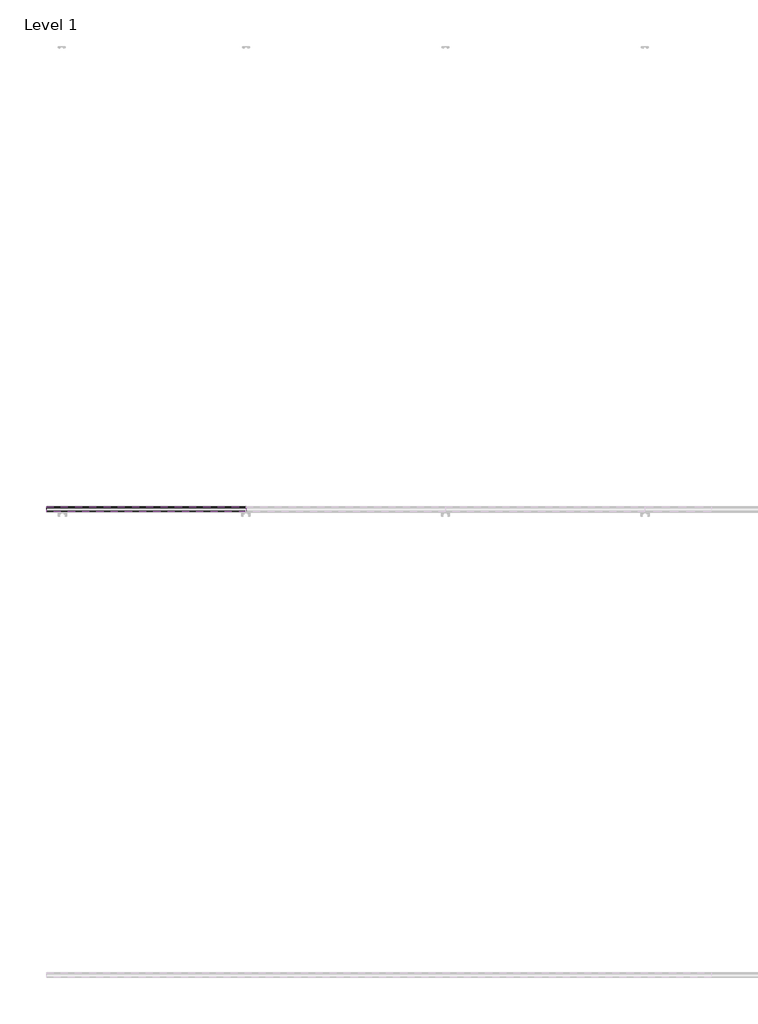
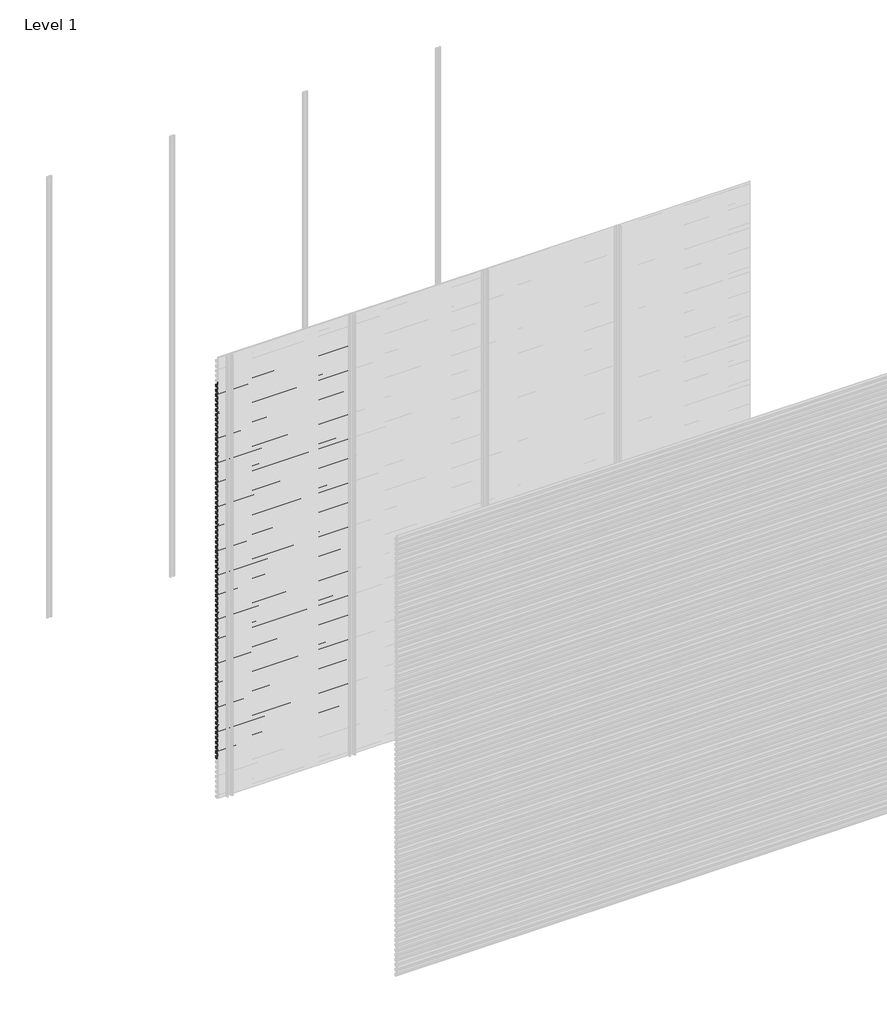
# One storey, part 80 of 96: 77 proxies.
"""IFC4 building model written with IfcOpenShell, lengths in millimetres."""

from ifc_helpers import new_model, si_unit, frame, origin, place, context, project, spatial, polyline, outline, extrude, element, save

model = new_model("IFC4")

# Units and contexts
model_context = context("Model", 3, world=origin())
ifc_project = project(units=[si_unit("LENGTHUNIT", "METRE", prefix="MILLI")], contexts=[model_context])

# Site, building, storey
site = spatial("IfcSite", under=ifc_project)
building = spatial("IfcBuilding", under=site)
storey = spatial("IfcBuildingStorey", under=building, Name="Level 1", Elevation=0.0)

# Proxies
placement = place(None, origin())
element("IfcBuildingElementProxy", 1, Name="Wall Sweeps", at=placement, inside=storey, context=model_context, shape_type="SweptSolid", body=[
    extrude(outline(polyline([(-5977.6, 2805.2655033), (-5977.6, 2790.9779188), (-5982.4114965, 2788.2), (-5982.4114965, 2789.4701706), (-5978.85, 2791.5264016), (-5978.85, 2804.5437382), (-5998.0, 2815.6000799), (-5998.0, 2830.5), (-5996.75, 2830.5), (-5996.75, 2816.3217609), (-5977.6, 2805.2655033)])), frame((0.0, 0.0, 0.0), z_axis=(1.0, 0.0, 0.0), x_axis=(0.0, 1.0, 0.0)), (0.0, 0.0, 1.0), 857.1428571),
])
element("IfcBuildingElementProxy", 2, Name="Wall Sweeps", at=placement, inside=storey, context=model_context, shape_type="SweptSolid", body=[
    extrude(outline(polyline([(-5977.6, 2771.9655033), (-5977.6, 2757.6779188), (-5982.4114965, 2754.9), (-5982.4114965, 2756.1701706), (-5978.85, 2758.2264016), (-5978.85, 2771.2437382), (-5998.0, 2782.3000799), (-5998.0, 2797.2), (-5996.75, 2797.2), (-5996.75, 2783.0217609), (-5977.6, 2771.9655033)])), frame((0.0, 0.0, 0.0), z_axis=(1.0, 0.0, 0.0), x_axis=(0.0, 1.0, 0.0)), (0.0, 0.0, 1.0), 857.1428571),
])
element("IfcBuildingElementProxy", 3, Name="Wall Sweeps", at=placement, inside=storey, context=model_context, shape_type="SweptSolid", body=[
    extrude(outline(polyline([(-5977.6, 2738.6655033), (-5977.6, 2724.3779188), (-5982.4114965, 2721.6), (-5982.4114965, 2722.8701706), (-5978.85, 2724.9264016), (-5978.85, 2737.9437382), (-5998.0, 2749.0000799), (-5998.0, 2763.9), (-5996.75, 2763.9), (-5996.75, 2749.7217609), (-5977.6, 2738.6655033)])), frame((0.0, 0.0, 0.0), z_axis=(1.0, 0.0, 0.0), x_axis=(0.0, 1.0, 0.0)), (0.0, 0.0, 1.0), 857.1428571),
])
element("IfcBuildingElementProxy", 4, Name="Wall Sweeps", at=placement, inside=storey, context=model_context, shape_type="SweptSolid", body=[
    extrude(outline(polyline([(-5977.6, 2705.3655033), (-5977.6, 2691.0779188), (-5982.4114965, 2688.3), (-5982.4114965, 2689.5701706), (-5978.85, 2691.6264016), (-5978.85, 2704.6437382), (-5998.0, 2715.7000799), (-5998.0, 2730.6), (-5996.75, 2730.6), (-5996.75, 2716.4217609), (-5977.6, 2705.3655033)])), frame((0.0, 0.0, 0.0), z_axis=(1.0, 0.0, 0.0), x_axis=(0.0, 1.0, 0.0)), (0.0, 0.0, 1.0), 857.1428571),
])
element("IfcBuildingElementProxy", 5, Name="Wall Sweeps", at=placement, inside=storey, context=model_context, shape_type="SweptSolid", body=[
    extrude(outline(polyline([(-5977.6, 2672.0655033), (-5977.6, 2657.7779188), (-5982.4114965, 2655.0), (-5982.4114965, 2656.2701706), (-5978.85, 2658.3264016), (-5978.85, 2671.3437382), (-5998.0, 2682.4000799), (-5998.0, 2697.3), (-5996.75, 2697.3), (-5996.75, 2683.1217609), (-5977.6, 2672.0655033)])), frame((0.0, 0.0, 0.0), z_axis=(1.0, 0.0, 0.0), x_axis=(0.0, 1.0, 0.0)), (0.0, 0.0, 1.0), 857.1428571),
])
element("IfcBuildingElementProxy", 6, Name="Wall Sweeps", at=placement, inside=storey, context=model_context, shape_type="SweptSolid", body=[
    extrude(outline(polyline([(-5977.6, 2638.7655033), (-5977.6, 2624.4779188), (-5982.4114965, 2621.7), (-5982.4114965, 2622.9701706), (-5978.85, 2625.0264016), (-5978.85, 2638.0437382), (-5998.0, 2649.1000799), (-5998.0, 2664.0), (-5996.75, 2664.0), (-5996.75, 2649.8217609), (-5977.6, 2638.7655033)])), frame((0.0, 0.0, 0.0), z_axis=(1.0, 0.0, 0.0), x_axis=(0.0, 1.0, 0.0)), (0.0, 0.0, 1.0), 857.1428571),
])
element("IfcBuildingElementProxy", 7, Name="Wall Sweeps", at=placement, inside=storey, context=model_context, shape_type="SweptSolid", body=[
    extrude(outline(polyline([(-5977.6, 2605.4655033), (-5977.6, 2591.1779188), (-5982.4114965, 2588.4), (-5982.4114965, 2589.6701706), (-5978.85, 2591.7264016), (-5978.85, 2604.7437382), (-5998.0, 2615.8000799), (-5998.0, 2630.7), (-5996.75, 2630.7), (-5996.75, 2616.5217609), (-5977.6, 2605.4655033)])), frame((0.0, 0.0, 0.0), z_axis=(1.0, 0.0, 0.0), x_axis=(0.0, 1.0, 0.0)), (0.0, 0.0, 1.0), 857.1428571),
])
element("IfcBuildingElementProxy", 8, Name="Wall Sweeps", at=placement, inside=storey, context=model_context, shape_type="SweptSolid", body=[
    extrude(outline(polyline([(-5977.6, 2572.1655033), (-5977.6, 2557.8779188), (-5982.4114965, 2555.1), (-5982.4114965, 2556.3701706), (-5978.85, 2558.4264016), (-5978.85, 2571.4437382), (-5998.0, 2582.5000799), (-5998.0, 2597.4), (-5996.75, 2597.4), (-5996.75, 2583.2217609), (-5977.6, 2572.1655033)])), frame((0.0, 0.0, 0.0), z_axis=(1.0, 0.0, 0.0), x_axis=(0.0, 1.0, 0.0)), (0.0, 0.0, 1.0), 857.1428571),
])
element("IfcBuildingElementProxy", 9, Name="Wall Sweeps", at=placement, inside=storey, context=model_context, shape_type="SweptSolid", body=[
    extrude(outline(polyline([(-5977.6, 2538.8655033), (-5977.6, 2524.5779188), (-5982.4114965, 2521.8), (-5982.4114965, 2523.0701706), (-5978.85, 2525.1264016), (-5978.85, 2538.1437382), (-5998.0, 2549.2000799), (-5998.0, 2564.1), (-5996.75, 2564.1), (-5996.75, 2549.9217609), (-5977.6, 2538.8655033)])), frame((0.0, 0.0, 0.0), z_axis=(1.0, 0.0, 0.0), x_axis=(0.0, 1.0, 0.0)), (0.0, 0.0, 1.0), 857.1428571),
])
element("IfcBuildingElementProxy", 10, Name="Wall Sweeps", at=placement, inside=storey, context=model_context, shape_type="SweptSolid", body=[
    extrude(outline(polyline([(-5977.6, 2505.5655033), (-5977.6, 2491.2779188), (-5982.4114965, 2488.5), (-5982.4114965, 2489.7701706), (-5978.85, 2491.8264016), (-5978.85, 2504.8437382), (-5998.0, 2515.9000799), (-5998.0, 2530.8), (-5996.75, 2530.8), (-5996.75, 2516.6217609), (-5977.6, 2505.5655033)])), frame((0.0, 0.0, 0.0), z_axis=(1.0, 0.0, 0.0), x_axis=(0.0, 1.0, 0.0)), (0.0, 0.0, 1.0), 857.1428571),
])
element("IfcBuildingElementProxy", 11, Name="Wall Sweeps", at=placement, inside=storey, context=model_context, shape_type="SweptSolid", body=[
    extrude(outline(polyline([(-5977.6, 2472.2655033), (-5977.6, 2457.9779188), (-5982.4114965, 2455.2), (-5982.4114965, 2456.4701706), (-5978.85, 2458.5264016), (-5978.85, 2471.5437382), (-5998.0, 2482.6000799), (-5998.0, 2497.5), (-5996.75, 2497.5), (-5996.75, 2483.3217609), (-5977.6, 2472.2655033)])), frame((0.0, 0.0, 0.0), z_axis=(1.0, 0.0, 0.0), x_axis=(0.0, 1.0, 0.0)), (0.0, 0.0, 1.0), 857.1428571),
])
element("IfcBuildingElementProxy", 12, Name="Wall Sweeps", at=placement, inside=storey, context=model_context, shape_type="SweptSolid", body=[
    extrude(outline(polyline([(-5977.6, 2438.9655033), (-5977.6, 2424.6779188), (-5982.4114965, 2421.9), (-5982.4114965, 2423.1701706), (-5978.85, 2425.2264016), (-5978.85, 2438.2437382), (-5998.0, 2449.3000799), (-5998.0, 2464.2), (-5996.75, 2464.2), (-5996.75, 2450.0217609), (-5977.6, 2438.9655033)])), frame((0.0, 0.0, 0.0), z_axis=(1.0, 0.0, 0.0), x_axis=(0.0, 1.0, 0.0)), (0.0, 0.0, 1.0), 857.1428571),
])
element("IfcBuildingElementProxy", 13, Name="Wall Sweeps", at=placement, inside=storey, context=model_context, shape_type="SweptSolid", body=[
    extrude(outline(polyline([(-5977.6, 2405.6655033), (-5977.6, 2391.3779188), (-5982.4114965, 2388.6), (-5982.4114965, 2389.8701706), (-5978.85, 2391.9264016), (-5978.85, 2404.9437382), (-5998.0, 2416.0000799), (-5998.0, 2430.9), (-5996.75, 2430.9), (-5996.75, 2416.7217609), (-5977.6, 2405.6655033)])), frame((0.0, 0.0, 0.0), z_axis=(1.0, 0.0, 0.0), x_axis=(0.0, 1.0, 0.0)), (0.0, 0.0, 1.0), 857.1428571),
])
element("IfcBuildingElementProxy", 14, Name="Wall Sweeps", at=placement, inside=storey, context=model_context, shape_type="SweptSolid", body=[
    extrude(outline(polyline([(-5977.6, 2372.3655033), (-5977.6, 2358.0779188), (-5982.4114965, 2355.3), (-5982.4114965, 2356.5701706), (-5978.85, 2358.6264016), (-5978.85, 2371.6437382), (-5998.0, 2382.7000799), (-5998.0, 2397.6), (-5996.75, 2397.6), (-5996.75, 2383.4217609), (-5977.6, 2372.3655033)])), frame((0.0, 0.0, 0.0), z_axis=(1.0, 0.0, 0.0), x_axis=(0.0, 1.0, 0.0)), (0.0, 0.0, 1.0), 857.1428571),
])
element("IfcBuildingElementProxy", 15, Name="Wall Sweeps", at=placement, inside=storey, context=model_context, shape_type="SweptSolid", body=[
    extrude(outline(polyline([(-5977.6, 2339.0655033), (-5977.6, 2324.7779188), (-5982.4114965, 2322.0), (-5982.4114965, 2323.2701706), (-5978.85, 2325.3264016), (-5978.85, 2338.3437382), (-5998.0, 2349.4000799), (-5998.0, 2364.3), (-5996.75, 2364.3), (-5996.75, 2350.1217609), (-5977.6, 2339.0655033)])), frame((0.0, 0.0, 0.0), z_axis=(1.0, 0.0, 0.0), x_axis=(0.0, 1.0, 0.0)), (0.0, 0.0, 1.0), 857.1428571),
])
element("IfcBuildingElementProxy", 16, Name="Wall Sweeps", at=placement, inside=storey, context=model_context, shape_type="SweptSolid", body=[
    extrude(outline(polyline([(-5977.6, 2305.7655033), (-5977.6, 2291.4779188), (-5982.4114965, 2288.7), (-5982.4114965, 2289.9701706), (-5978.85, 2292.0264016), (-5978.85, 2305.0437382), (-5998.0, 2316.1000799), (-5998.0, 2331.0), (-5996.75, 2331.0), (-5996.75, 2316.8217609), (-5977.6, 2305.7655033)])), frame((0.0, 0.0, 0.0), z_axis=(1.0, 0.0, 0.0), x_axis=(0.0, 1.0, 0.0)), (0.0, 0.0, 1.0), 857.1428571),
])
element("IfcBuildingElementProxy", 17, Name="Wall Sweeps", at=placement, inside=storey, context=model_context, shape_type="SweptSolid", body=[
    extrude(outline(polyline([(-5977.6, 2272.4655033), (-5977.6, 2258.1779188), (-5982.4114965, 2255.4), (-5982.4114965, 2256.6701706), (-5978.85, 2258.7264016), (-5978.85, 2271.7437382), (-5998.0, 2282.8000799), (-5998.0, 2297.7), (-5996.75, 2297.7), (-5996.75, 2283.5217609), (-5977.6, 2272.4655033)])), frame((0.0, 0.0, 0.0), z_axis=(1.0, 0.0, 0.0), x_axis=(0.0, 1.0, 0.0)), (0.0, 0.0, 1.0), 857.1428571),
])
element("IfcBuildingElementProxy", 18, Name="Wall Sweeps", at=placement, inside=storey, context=model_context, shape_type="SweptSolid", body=[
    extrude(outline(polyline([(-5977.6, 2239.1655033), (-5977.6, 2224.8779188), (-5982.4114965, 2222.1), (-5982.4114965, 2223.3701706), (-5978.85, 2225.4264016), (-5978.85, 2238.4437382), (-5998.0, 2249.5000799), (-5998.0, 2264.4), (-5996.75, 2264.4), (-5996.75, 2250.2217609), (-5977.6, 2239.1655033)])), frame((0.0, 0.0, 0.0), z_axis=(1.0, 0.0, 0.0), x_axis=(0.0, 1.0, 0.0)), (0.0, 0.0, 1.0), 857.1428571),
])
element("IfcBuildingElementProxy", 19, Name="Wall Sweeps", at=placement, inside=storey, context=model_context, shape_type="SweptSolid", body=[
    extrude(outline(polyline([(-5977.6, 2205.8655033), (-5977.6, 2191.5779188), (-5982.4114965, 2188.8), (-5982.4114965, 2190.0701706), (-5978.85, 2192.1264016), (-5978.85, 2205.1437382), (-5998.0, 2216.2000799), (-5998.0, 2231.1), (-5996.75, 2231.1), (-5996.75, 2216.9217609), (-5977.6, 2205.8655033)])), frame((0.0, 0.0, 0.0), z_axis=(1.0, 0.0, 0.0), x_axis=(0.0, 1.0, 0.0)), (0.0, 0.0, 1.0), 857.1428571),
])
element("IfcBuildingElementProxy", 20, Name="Wall Sweeps", at=placement, inside=storey, context=model_context, shape_type="SweptSolid", body=[
    extrude(outline(polyline([(-5977.6, 2172.5655033), (-5977.6, 2158.2779188), (-5982.4114965, 2155.5), (-5982.4114965, 2156.7701706), (-5978.85, 2158.8264016), (-5978.85, 2171.8437382), (-5998.0, 2182.9000799), (-5998.0, 2197.8), (-5996.75, 2197.8), (-5996.75, 2183.6217609), (-5977.6, 2172.5655033)])), frame((0.0, 0.0, 0.0), z_axis=(1.0, 0.0, 0.0), x_axis=(0.0, 1.0, 0.0)), (0.0, 0.0, 1.0), 857.1428571),
])
element("IfcBuildingElementProxy", 21, Name="Wall Sweeps", at=placement, inside=storey, context=model_context, shape_type="SweptSolid", body=[
    extrude(outline(polyline([(-5977.6, 2139.2655033), (-5977.6, 2124.9779188), (-5982.4114965, 2122.2), (-5982.4114965, 2123.4701706), (-5978.85, 2125.5264016), (-5978.85, 2138.5437382), (-5998.0, 2149.6000799), (-5998.0, 2164.5), (-5996.75, 2164.5), (-5996.75, 2150.3217609), (-5977.6, 2139.2655033)])), frame((0.0, 0.0, 0.0), z_axis=(1.0, 0.0, 0.0), x_axis=(0.0, 1.0, 0.0)), (0.0, 0.0, 1.0), 857.1428571),
])
element("IfcBuildingElementProxy", 22, Name="Wall Sweeps", at=placement, inside=storey, context=model_context, shape_type="SweptSolid", body=[
    extrude(outline(polyline([(-5977.6, 2105.9655033), (-5977.6, 2091.6779188), (-5982.4114965, 2088.9), (-5982.4114965, 2090.1701706), (-5978.85, 2092.2264016), (-5978.85, 2105.2437382), (-5998.0, 2116.3000799), (-5998.0, 2131.2), (-5996.75, 2131.2), (-5996.75, 2117.0217609), (-5977.6, 2105.9655033)])), frame((0.0, 0.0, 0.0), z_axis=(1.0, 0.0, 0.0), x_axis=(0.0, 1.0, 0.0)), (0.0, 0.0, 1.0), 857.1428571),
])
element("IfcBuildingElementProxy", 23, Name="Wall Sweeps", at=placement, inside=storey, context=model_context, shape_type="SweptSolid", body=[
    extrude(outline(polyline([(-5977.6, 2072.6655033), (-5977.6, 2058.3779188), (-5982.4114965, 2055.6), (-5982.4114965, 2056.8701706), (-5978.85, 2058.9264016), (-5978.85, 2071.9437382), (-5998.0, 2083.0000799), (-5998.0, 2097.9), (-5996.75, 2097.9), (-5996.75, 2083.7217609), (-5977.6, 2072.6655033)])), frame((0.0, 0.0, 0.0), z_axis=(1.0, 0.0, 0.0), x_axis=(0.0, 1.0, 0.0)), (0.0, 0.0, 1.0), 857.1428571),
])
element("IfcBuildingElementProxy", 24, Name="Wall Sweeps", at=placement, inside=storey, context=model_context, shape_type="SweptSolid", body=[
    extrude(outline(polyline([(-5977.6, 2039.3655033), (-5977.6, 2025.0779188), (-5982.4114965, 2022.3), (-5982.4114965, 2023.5701706), (-5978.85, 2025.6264016), (-5978.85, 2038.6437382), (-5998.0, 2049.7000799), (-5998.0, 2064.6), (-5996.75, 2064.6), (-5996.75, 2050.4217609), (-5977.6, 2039.3655033)])), frame((0.0, 0.0, 0.0), z_axis=(1.0, 0.0, 0.0), x_axis=(0.0, 1.0, 0.0)), (0.0, 0.0, 1.0), 857.1428571),
])
element("IfcBuildingElementProxy", 25, Name="Wall Sweeps", at=placement, inside=storey, context=model_context, shape_type="SweptSolid", body=[
    extrude(outline(polyline([(-5977.6, 2006.0655033), (-5977.6, 1991.7779188), (-5982.4114965, 1989.0), (-5982.4114965, 1990.2701706), (-5978.85, 1992.3264016), (-5978.85, 2005.3437382), (-5998.0, 2016.4000799), (-5998.0, 2031.3), (-5996.75, 2031.3), (-5996.75, 2017.1217609), (-5977.6, 2006.0655033)])), frame((0.0, 0.0, 0.0), z_axis=(1.0, 0.0, 0.0), x_axis=(0.0, 1.0, 0.0)), (0.0, 0.0, 1.0), 857.1428571),
])
element("IfcBuildingElementProxy", 26, Name="Wall Sweeps", at=placement, inside=storey, context=model_context, shape_type="SweptSolid", body=[
    extrude(outline(polyline([(-5977.6, 1972.7655033), (-5977.6, 1958.4779188), (-5982.4114965, 1955.7), (-5982.4114965, 1956.9701706), (-5978.85, 1959.0264016), (-5978.85, 1972.0437382), (-5998.0, 1983.1000799), (-5998.0, 1998.0), (-5996.75, 1998.0), (-5996.75, 1983.8217609), (-5977.6, 1972.7655033)])), frame((0.0, 0.0, 0.0), z_axis=(1.0, 0.0, 0.0), x_axis=(0.0, 1.0, 0.0)), (0.0, 0.0, 1.0), 857.1428571),
])
element("IfcBuildingElementProxy", 27, Name="Wall Sweeps", at=placement, inside=storey, context=model_context, shape_type="SweptSolid", body=[
    extrude(outline(polyline([(-5977.6, 1939.4655033), (-5977.6, 1925.1779188), (-5982.4114965, 1922.4), (-5982.4114965, 1923.6701706), (-5978.85, 1925.7264016), (-5978.85, 1938.7437382), (-5998.0, 1949.8000799), (-5998.0, 1964.7), (-5996.75, 1964.7), (-5996.75, 1950.5217609), (-5977.6, 1939.4655033)])), frame((0.0, 0.0, 0.0), z_axis=(1.0, 0.0, 0.0), x_axis=(0.0, 1.0, 0.0)), (0.0, 0.0, 1.0), 857.1428571),
])
element("IfcBuildingElementProxy", 28, Name="Wall Sweeps", at=placement, inside=storey, context=model_context, shape_type="SweptSolid", body=[
    extrude(outline(polyline([(-5977.6, 1906.1655033), (-5977.6, 1891.8779188), (-5982.4114965, 1889.1), (-5982.4114965, 1890.3701706), (-5978.85, 1892.4264016), (-5978.85, 1905.4437382), (-5998.0, 1916.5000799), (-5998.0, 1931.4), (-5996.75, 1931.4), (-5996.75, 1917.2217609), (-5977.6, 1906.1655033)])), frame((0.0, 0.0, 0.0), z_axis=(1.0, 0.0, 0.0), x_axis=(0.0, 1.0, 0.0)), (0.0, 0.0, 1.0), 857.1428571),
])
element("IfcBuildingElementProxy", 29, Name="Wall Sweeps", at=placement, inside=storey, context=model_context, shape_type="SweptSolid", body=[
    extrude(outline(polyline([(-5977.6, 1872.8655033), (-5977.6, 1858.5779188), (-5982.4114965, 1855.8), (-5982.4114965, 1857.0701706), (-5978.85, 1859.1264016), (-5978.85, 1872.1437382), (-5998.0, 1883.2000799), (-5998.0, 1898.1), (-5996.75, 1898.1), (-5996.75, 1883.9217609), (-5977.6, 1872.8655033)])), frame((0.0, 0.0, 0.0), z_axis=(1.0, 0.0, 0.0), x_axis=(0.0, 1.0, 0.0)), (0.0, 0.0, 1.0), 857.1428571),
])
element("IfcBuildingElementProxy", 30, Name="Wall Sweeps", at=placement, inside=storey, context=model_context, shape_type="SweptSolid", body=[
    extrude(outline(polyline([(-5977.6, 1839.5655033), (-5977.6, 1825.2779188), (-5982.4114965, 1822.5), (-5982.4114965, 1823.7701706), (-5978.85, 1825.8264016), (-5978.85, 1838.8437382), (-5998.0, 1849.9000799), (-5998.0, 1864.8), (-5996.75, 1864.8), (-5996.75, 1850.6217609), (-5977.6, 1839.5655033)])), frame((0.0, 0.0, 0.0), z_axis=(1.0, 0.0, 0.0), x_axis=(0.0, 1.0, 0.0)), (0.0, 0.0, 1.0), 857.1428571),
])
element("IfcBuildingElementProxy", 31, Name="Wall Sweeps", at=placement, inside=storey, context=model_context, shape_type="SweptSolid", body=[
    extrude(outline(polyline([(-5977.6, 1806.2655033), (-5977.6, 1791.9779188), (-5982.4114965, 1789.2), (-5982.4114965, 1790.4701706), (-5978.85, 1792.5264016), (-5978.85, 1805.5437382), (-5998.0, 1816.6000799), (-5998.0, 1831.5), (-5996.75, 1831.5), (-5996.75, 1817.3217609), (-5977.6, 1806.2655033)])), frame((0.0, 0.0, 0.0), z_axis=(1.0, 0.0, 0.0), x_axis=(0.0, 1.0, 0.0)), (0.0, 0.0, 1.0), 857.1428571),
])
element("IfcBuildingElementProxy", 32, Name="Wall Sweeps", at=placement, inside=storey, context=model_context, shape_type="SweptSolid", body=[
    extrude(outline(polyline([(-5977.6, 1772.9655033), (-5977.6, 1758.6779188), (-5982.4114965, 1755.9), (-5982.4114965, 1757.1701706), (-5978.85, 1759.2264016), (-5978.85, 1772.2437382), (-5998.0, 1783.3000799), (-5998.0, 1798.2), (-5996.75, 1798.2), (-5996.75, 1784.0217609), (-5977.6, 1772.9655033)])), frame((0.0, 0.0, 0.0), z_axis=(1.0, 0.0, 0.0), x_axis=(0.0, 1.0, 0.0)), (0.0, 0.0, 1.0), 857.1428571),
])
element("IfcBuildingElementProxy", 33, Name="Wall Sweeps", at=placement, inside=storey, context=model_context, shape_type="SweptSolid", body=[
    extrude(outline(polyline([(-5977.6, 1739.6655033), (-5977.6, 1725.3779188), (-5982.4114965, 1722.6), (-5982.4114965, 1723.8701706), (-5978.85, 1725.9264016), (-5978.85, 1738.9437382), (-5998.0, 1750.0000799), (-5998.0, 1764.9), (-5996.75, 1764.9), (-5996.75, 1750.7217609), (-5977.6, 1739.6655033)])), frame((0.0, 0.0, 0.0), z_axis=(1.0, 0.0, 0.0), x_axis=(0.0, 1.0, 0.0)), (0.0, 0.0, 1.0), 857.1428571),
])
element("IfcBuildingElementProxy", 34, Name="Wall Sweeps", at=placement, inside=storey, context=model_context, shape_type="SweptSolid", body=[
    extrude(outline(polyline([(-5977.6, 1706.3655033), (-5977.6, 1692.0779188), (-5982.4114965, 1689.3), (-5982.4114965, 1690.5701706), (-5978.85, 1692.6264016), (-5978.85, 1705.6437382), (-5998.0, 1716.7000799), (-5998.0, 1731.6), (-5996.75, 1731.6), (-5996.75, 1717.4217609), (-5977.6, 1706.3655033)])), frame((0.0, 0.0, 0.0), z_axis=(1.0, 0.0, 0.0), x_axis=(0.0, 1.0, 0.0)), (0.0, 0.0, 1.0), 857.1428571),
])
element("IfcBuildingElementProxy", 35, Name="Wall Sweeps", at=placement, inside=storey, context=model_context, shape_type="SweptSolid", body=[
    extrude(outline(polyline([(-5977.6, 1673.0655033), (-5977.6, 1658.7779188), (-5982.4114965, 1656.0), (-5982.4114965, 1657.2701706), (-5978.85, 1659.3264016), (-5978.85, 1672.3437382), (-5998.0, 1683.4000799), (-5998.0, 1698.3), (-5996.75, 1698.3), (-5996.75, 1684.1217609), (-5977.6, 1673.0655033)])), frame((0.0, 0.0, 0.0), z_axis=(1.0, 0.0, 0.0), x_axis=(0.0, 1.0, 0.0)), (0.0, 0.0, 1.0), 857.1428571),
])
element("IfcBuildingElementProxy", 36, Name="Wall Sweeps", at=placement, inside=storey, context=model_context, shape_type="SweptSolid", body=[
    extrude(outline(polyline([(-5977.6, 1639.7655033), (-5977.6, 1625.4779188), (-5982.4114965, 1622.7), (-5982.4114965, 1623.9701706), (-5978.85, 1626.0264016), (-5978.85, 1639.0437382), (-5998.0, 1650.1000799), (-5998.0, 1665.0), (-5996.75, 1665.0), (-5996.75, 1650.8217609), (-5977.6, 1639.7655033)])), frame((0.0, 0.0, 0.0), z_axis=(1.0, 0.0, 0.0), x_axis=(0.0, 1.0, 0.0)), (0.0, 0.0, 1.0), 857.1428571),
])
element("IfcBuildingElementProxy", 37, Name="Wall Sweeps", at=placement, inside=storey, context=model_context, shape_type="SweptSolid", body=[
    extrude(outline(polyline([(-5977.6, 1606.4655033), (-5977.6, 1592.1779188), (-5982.4114965, 1589.4), (-5982.4114965, 1590.6701706), (-5978.85, 1592.7264016), (-5978.85, 1605.7437382), (-5998.0, 1616.8000799), (-5998.0, 1631.7), (-5996.75, 1631.7), (-5996.75, 1617.5217609), (-5977.6, 1606.4655033)])), frame((0.0, 0.0, 0.0), z_axis=(1.0, 0.0, 0.0), x_axis=(0.0, 1.0, 0.0)), (0.0, 0.0, 1.0), 857.1428571),
])
element("IfcBuildingElementProxy", 38, Name="Wall Sweeps", at=placement, inside=storey, context=model_context, shape_type="SweptSolid", body=[
    extrude(outline(polyline([(-5977.6, 1573.1655033), (-5977.6, 1558.8779188), (-5982.4114965, 1556.1), (-5982.4114965, 1557.3701706), (-5978.85, 1559.4264016), (-5978.85, 1572.4437382), (-5998.0, 1583.5000799), (-5998.0, 1598.4), (-5996.75, 1598.4), (-5996.75, 1584.2217609), (-5977.6, 1573.1655033)])), frame((0.0, 0.0, 0.0), z_axis=(1.0, 0.0, 0.0), x_axis=(0.0, 1.0, 0.0)), (0.0, 0.0, 1.0), 857.1428571),
])
element("IfcBuildingElementProxy", 39, Name="Wall Sweeps", at=placement, inside=storey, context=model_context, shape_type="SweptSolid", body=[
    extrude(outline(polyline([(-5977.6, 1539.8655033), (-5977.6, 1525.5779188), (-5982.4114965, 1522.8), (-5982.4114965, 1524.0701706), (-5978.85, 1526.1264016), (-5978.85, 1539.1437382), (-5998.0, 1550.2000799), (-5998.0, 1565.1), (-5996.75, 1565.1), (-5996.75, 1550.9217609), (-5977.6, 1539.8655033)])), frame((0.0, 0.0, 0.0), z_axis=(1.0, 0.0, 0.0), x_axis=(0.0, 1.0, 0.0)), (0.0, 0.0, 1.0), 857.1428571),
])
element("IfcBuildingElementProxy", 40, Name="Wall Sweeps", at=placement, inside=storey, context=model_context, shape_type="SweptSolid", body=[
    extrude(outline(polyline([(-5977.6, 1506.5655033), (-5977.6, 1492.2779188), (-5982.4114965, 1489.5), (-5982.4114965, 1490.7701706), (-5978.85, 1492.8264016), (-5978.85, 1505.8437382), (-5998.0, 1516.9000799), (-5998.0, 1531.8), (-5996.75, 1531.8), (-5996.75, 1517.6217609), (-5977.6, 1506.5655033)])), frame((0.0, 0.0, 0.0), z_axis=(1.0, 0.0, 0.0), x_axis=(0.0, 1.0, 0.0)), (0.0, 0.0, 1.0), 857.1428571),
])
element("IfcBuildingElementProxy", 41, Name="Wall Sweeps", at=placement, inside=storey, context=model_context, shape_type="SweptSolid", body=[
    extrude(outline(polyline([(-5977.6, 1473.2655033), (-5977.6, 1458.9779188), (-5982.4114965, 1456.2), (-5982.4114965, 1457.4701706), (-5978.85, 1459.5264016), (-5978.85, 1472.5437382), (-5998.0, 1483.6000799), (-5998.0, 1498.5), (-5996.75, 1498.5), (-5996.75, 1484.3217609), (-5977.6, 1473.2655033)])), frame((0.0, 0.0, 0.0), z_axis=(1.0, 0.0, 0.0), x_axis=(0.0, 1.0, 0.0)), (0.0, 0.0, 1.0), 857.1428571),
])
element("IfcBuildingElementProxy", 42, Name="Wall Sweeps", at=placement, inside=storey, context=model_context, shape_type="SweptSolid", body=[
    extrude(outline(polyline([(-5977.6, 1439.9655033), (-5977.6, 1425.6779188), (-5982.4114965, 1422.9), (-5982.4114965, 1424.1701706), (-5978.85, 1426.2264016), (-5978.85, 1439.2437382), (-5998.0, 1450.3000799), (-5998.0, 1465.2), (-5996.75, 1465.2), (-5996.75, 1451.0217609), (-5977.6, 1439.9655033)])), frame((0.0, 0.0, 0.0), z_axis=(1.0, 0.0, 0.0), x_axis=(0.0, 1.0, 0.0)), (0.0, 0.0, 1.0), 857.1428571),
])
element("IfcBuildingElementProxy", 43, Name="Wall Sweeps", at=placement, inside=storey, context=model_context, shape_type="SweptSolid", body=[
    extrude(outline(polyline([(-5977.6, 1406.6655033), (-5977.6, 1392.3779188), (-5982.4114965, 1389.6), (-5982.4114965, 1390.8701706), (-5978.85, 1392.9264016), (-5978.85, 1405.9437382), (-5998.0, 1417.0000799), (-5998.0, 1431.9), (-5996.75, 1431.9), (-5996.75, 1417.7217609), (-5977.6, 1406.6655033)])), frame((0.0, 0.0, 0.0), z_axis=(1.0, 0.0, 0.0), x_axis=(0.0, 1.0, 0.0)), (0.0, 0.0, 1.0), 857.1428571),
])
element("IfcBuildingElementProxy", 44, Name="Wall Sweeps", at=placement, inside=storey, context=model_context, shape_type="SweptSolid", body=[
    extrude(outline(polyline([(-5977.6, 1373.3655033), (-5977.6, 1359.0779188), (-5982.4114965, 1356.3), (-5982.4114965, 1357.5701706), (-5978.85, 1359.6264016), (-5978.85, 1372.6437382), (-5998.0, 1383.7000799), (-5998.0, 1398.6), (-5996.75, 1398.6), (-5996.75, 1384.4217609), (-5977.6, 1373.3655033)])), frame((0.0, 0.0, 0.0), z_axis=(1.0, 0.0, 0.0), x_axis=(0.0, 1.0, 0.0)), (0.0, 0.0, 1.0), 857.1428571),
])
element("IfcBuildingElementProxy", 45, Name="Wall Sweeps", at=placement, inside=storey, context=model_context, shape_type="SweptSolid", body=[
    extrude(outline(polyline([(-5977.6, 1340.0655033), (-5977.6, 1325.7779188), (-5982.4114965, 1323.0), (-5982.4114965, 1324.2701706), (-5978.85, 1326.3264016), (-5978.85, 1339.3437382), (-5998.0, 1350.4000799), (-5998.0, 1365.3), (-5996.75, 1365.3), (-5996.75, 1351.1217609), (-5977.6, 1340.0655033)])), frame((0.0, 0.0, 0.0), z_axis=(1.0, 0.0, 0.0), x_axis=(0.0, 1.0, 0.0)), (0.0, 0.0, 1.0), 857.1428571),
])
element("IfcBuildingElementProxy", 46, Name="Wall Sweeps", at=placement, inside=storey, context=model_context, shape_type="SweptSolid", body=[
    extrude(outline(polyline([(-5977.6, 1306.7655033), (-5977.6, 1292.4779188), (-5982.4114965, 1289.7), (-5982.4114965, 1290.9701706), (-5978.85, 1293.0264016), (-5978.85, 1306.0437382), (-5998.0, 1317.1000799), (-5998.0, 1332.0), (-5996.75, 1332.0), (-5996.75, 1317.8217609), (-5977.6, 1306.7655033)])), frame((0.0, 0.0, 0.0), z_axis=(1.0, 0.0, 0.0), x_axis=(0.0, 1.0, 0.0)), (0.0, 0.0, 1.0), 857.1428571),
])
element("IfcBuildingElementProxy", 47, Name="Wall Sweeps", at=placement, inside=storey, context=model_context, shape_type="SweptSolid", body=[
    extrude(outline(polyline([(-5977.6, 1273.4655033), (-5977.6, 1259.1779188), (-5982.4114965, 1256.4), (-5982.4114965, 1257.6701706), (-5978.85, 1259.7264016), (-5978.85, 1272.7437382), (-5998.0, 1283.8000799), (-5998.0, 1298.7), (-5996.75, 1298.7), (-5996.75, 1284.5217609), (-5977.6, 1273.4655033)])), frame((0.0, 0.0, 0.0), z_axis=(1.0, 0.0, 0.0), x_axis=(0.0, 1.0, 0.0)), (0.0, 0.0, 1.0), 857.1428571),
])
element("IfcBuildingElementProxy", 48, Name="Wall Sweeps", at=placement, inside=storey, context=model_context, shape_type="SweptSolid", body=[
    extrude(outline(polyline([(-5977.6, 1240.1655033), (-5977.6, 1225.8779188), (-5982.4114965, 1223.1), (-5982.4114965, 1224.3701706), (-5978.85, 1226.4264016), (-5978.85, 1239.4437382), (-5998.0, 1250.5000799), (-5998.0, 1265.4), (-5996.75, 1265.4), (-5996.75, 1251.2217609), (-5977.6, 1240.1655033)])), frame((0.0, 0.0, 0.0), z_axis=(1.0, 0.0, 0.0), x_axis=(0.0, 1.0, 0.0)), (0.0, 0.0, 1.0), 857.1428571),
])
element("IfcBuildingElementProxy", 49, Name="Wall Sweeps", at=placement, inside=storey, context=model_context, shape_type="SweptSolid", body=[
    extrude(outline(polyline([(-5977.6, 1206.8655033), (-5977.6, 1192.5779188), (-5982.4114965, 1189.8), (-5982.4114965, 1191.0701706), (-5978.85, 1193.1264016), (-5978.85, 1206.1437382), (-5998.0, 1217.2000799), (-5998.0, 1232.1), (-5996.75, 1232.1), (-5996.75, 1217.9217609), (-5977.6, 1206.8655033)])), frame((0.0, 0.0, 0.0), z_axis=(1.0, 0.0, 0.0), x_axis=(0.0, 1.0, 0.0)), (0.0, 0.0, 1.0), 857.1428571),
])
element("IfcBuildingElementProxy", 50, Name="Wall Sweeps", at=placement, inside=storey, context=model_context, shape_type="SweptSolid", body=[
    extrude(outline(polyline([(-5977.6, 1173.5655033), (-5977.6, 1159.2779188), (-5982.4114965, 1156.5), (-5982.4114965, 1157.7701706), (-5978.85, 1159.8264016), (-5978.85, 1172.8437382), (-5998.0, 1183.9000799), (-5998.0, 1198.8), (-5996.75, 1198.8), (-5996.75, 1184.6217609), (-5977.6, 1173.5655033)])), frame((0.0, 0.0, 0.0), z_axis=(1.0, 0.0, 0.0), x_axis=(0.0, 1.0, 0.0)), (0.0, 0.0, 1.0), 857.1428571),
])
element("IfcBuildingElementProxy", 51, Name="Wall Sweeps", at=placement, inside=storey, context=model_context, shape_type="SweptSolid", body=[
    extrude(outline(polyline([(-5977.6, 1140.2655033), (-5977.6, 1125.9779188), (-5982.4114965, 1123.2), (-5982.4114965, 1124.4701706), (-5978.85, 1126.5264016), (-5978.85, 1139.5437382), (-5998.0, 1150.6000799), (-5998.0, 1165.5), (-5996.75, 1165.5), (-5996.75, 1151.3217609), (-5977.6, 1140.2655033)])), frame((0.0, 0.0, 0.0), z_axis=(1.0, 0.0, 0.0), x_axis=(0.0, 1.0, 0.0)), (0.0, 0.0, 1.0), 857.1428571),
])
element("IfcBuildingElementProxy", 52, Name="Wall Sweeps", at=placement, inside=storey, context=model_context, shape_type="SweptSolid", body=[
    extrude(outline(polyline([(-5977.6, 1106.9655033), (-5977.6, 1092.6779188), (-5982.4114965, 1089.9), (-5982.4114965, 1091.1701706), (-5978.85, 1093.2264016), (-5978.85, 1106.2437382), (-5998.0, 1117.3000799), (-5998.0, 1132.2), (-5996.75, 1132.2), (-5996.75, 1118.0217609), (-5977.6, 1106.9655033)])), frame((0.0, 0.0, 0.0), z_axis=(1.0, 0.0, 0.0), x_axis=(0.0, 1.0, 0.0)), (0.0, 0.0, 1.0), 857.1428571),
])
element("IfcBuildingElementProxy", 53, Name="Wall Sweeps", at=placement, inside=storey, context=model_context, shape_type="SweptSolid", body=[
    extrude(outline(polyline([(-5977.6, 1073.6655033), (-5977.6, 1059.3779188), (-5982.4114965, 1056.6), (-5982.4114965, 1057.8701706), (-5978.85, 1059.9264016), (-5978.85, 1072.9437382), (-5998.0, 1084.0000799), (-5998.0, 1098.9), (-5996.75, 1098.9), (-5996.75, 1084.7217609), (-5977.6, 1073.6655033)])), frame((0.0, 0.0, 0.0), z_axis=(1.0, 0.0, 0.0), x_axis=(0.0, 1.0, 0.0)), (0.0, 0.0, 1.0), 857.1428571),
])
element("IfcBuildingElementProxy", 54, Name="Wall Sweeps", at=placement, inside=storey, context=model_context, shape_type="SweptSolid", body=[
    extrude(outline(polyline([(-5977.6, 1040.3655033), (-5977.6, 1026.0779188), (-5982.4114965, 1023.3), (-5982.4114965, 1024.5701706), (-5978.85, 1026.6264016), (-5978.85, 1039.6437382), (-5998.0, 1050.7000799), (-5998.0, 1065.6), (-5996.75, 1065.6), (-5996.75, 1051.4217609), (-5977.6, 1040.3655033)])), frame((0.0, 0.0, 0.0), z_axis=(1.0, 0.0, 0.0), x_axis=(0.0, 1.0, 0.0)), (0.0, 0.0, 1.0), 857.1428571),
])
element("IfcBuildingElementProxy", 55, Name="Wall Sweeps", at=placement, inside=storey, context=model_context, shape_type="SweptSolid", body=[
    extrude(outline(polyline([(-5977.6, 1007.0655033), (-5977.6, 992.7779188), (-5982.4114965, 990.0), (-5982.4114965, 991.2701706), (-5978.85, 993.3264016), (-5978.85, 1006.3437382), (-5998.0, 1017.4000799), (-5998.0, 1032.3), (-5996.75, 1032.3), (-5996.75, 1018.1217609), (-5977.6, 1007.0655033)])), frame((0.0, 0.0, 0.0), z_axis=(1.0, 0.0, 0.0), x_axis=(0.0, 1.0, 0.0)), (0.0, 0.0, 1.0), 857.1428571),
])
element("IfcBuildingElementProxy", 56, Name="Wall Sweeps", at=placement, inside=storey, context=model_context, shape_type="SweptSolid", body=[
    extrude(outline(polyline([(-5977.6, 973.7655033), (-5977.6, 959.4779188), (-5982.4114965, 956.7), (-5982.4114965, 957.9701706), (-5978.85, 960.0264016), (-5978.85, 973.0437382), (-5998.0, 984.1000799), (-5998.0, 999.0), (-5996.75, 999.0), (-5996.75, 984.8217609), (-5977.6, 973.7655033)])), frame((0.0, 0.0, 0.0), z_axis=(1.0, 0.0, 0.0), x_axis=(0.0, 1.0, 0.0)), (0.0, 0.0, 1.0), 857.1428571),
])
element("IfcBuildingElementProxy", 57, Name="Wall Sweeps", at=placement, inside=storey, context=model_context, shape_type="SweptSolid", body=[
    extrude(outline(polyline([(-5977.6, 940.4655033), (-5977.6, 926.1779188), (-5982.4114965, 923.4), (-5982.4114965, 924.6701706), (-5978.85, 926.7264016), (-5978.85, 939.7437382), (-5998.0, 950.8000799), (-5998.0, 965.7), (-5996.75, 965.7), (-5996.75, 951.5217609), (-5977.6, 940.4655033)])), frame((0.0, 0.0, 0.0), z_axis=(1.0, 0.0, 0.0), x_axis=(0.0, 1.0, 0.0)), (0.0, 0.0, 1.0), 857.1428571),
])
element("IfcBuildingElementProxy", 58, Name="Wall Sweeps", at=placement, inside=storey, context=model_context, shape_type="SweptSolid", body=[
    extrude(outline(polyline([(-5977.6, 907.1655033), (-5977.6, 892.8779188), (-5982.4114965, 890.1), (-5982.4114965, 891.3701706), (-5978.85, 893.4264016), (-5978.85, 906.4437382), (-5998.0, 917.5000799), (-5998.0, 932.4), (-5996.75, 932.4), (-5996.75, 918.2217609), (-5977.6, 907.1655033)])), frame((0.0, 0.0, 0.0), z_axis=(1.0, 0.0, 0.0), x_axis=(0.0, 1.0, 0.0)), (0.0, 0.0, 1.0), 857.1428571),
])
element("IfcBuildingElementProxy", 59, Name="Wall Sweeps", at=placement, inside=storey, context=model_context, shape_type="SweptSolid", body=[
    extrude(outline(polyline([(-5977.6, 873.8655033), (-5977.6, 859.5779188), (-5982.4114965, 856.8), (-5982.4114965, 858.0701706), (-5978.85, 860.1264016), (-5978.85, 873.1437382), (-5998.0, 884.2000799), (-5998.0, 899.1), (-5996.75, 899.1), (-5996.75, 884.9217609), (-5977.6, 873.8655033)])), frame((0.0, 0.0, 0.0), z_axis=(1.0, 0.0, 0.0), x_axis=(0.0, 1.0, 0.0)), (0.0, 0.0, 1.0), 857.1428571),
])
element("IfcBuildingElementProxy", 60, Name="Wall Sweeps", at=placement, inside=storey, context=model_context, shape_type="SweptSolid", body=[
    extrude(outline(polyline([(-5977.6, 840.5655033), (-5977.6, 826.2779188), (-5982.4114965, 823.5), (-5982.4114965, 824.7701706), (-5978.85, 826.8264016), (-5978.85, 839.8437382), (-5998.0, 850.9000799), (-5998.0, 865.8), (-5996.75, 865.8), (-5996.75, 851.6217609), (-5977.6, 840.5655033)])), frame((0.0, 0.0, 0.0), z_axis=(1.0, 0.0, 0.0), x_axis=(0.0, 1.0, 0.0)), (0.0, 0.0, 1.0), 857.1428571),
])
element("IfcBuildingElementProxy", 61, Name="Wall Sweeps", at=placement, inside=storey, context=model_context, shape_type="SweptSolid", body=[
    extrude(outline(polyline([(-5977.6, 807.2655033), (-5977.6, 792.9779188), (-5982.4114965, 790.2), (-5982.4114965, 791.4701706), (-5978.85, 793.5264016), (-5978.85, 806.5437382), (-5998.0, 817.6000799), (-5998.0, 832.5), (-5996.75, 832.5), (-5996.75, 818.3217609), (-5977.6, 807.2655033)])), frame((0.0, 0.0, 0.0), z_axis=(1.0, 0.0, 0.0), x_axis=(0.0, 1.0, 0.0)), (0.0, 0.0, 1.0), 857.1428571),
])
element("IfcBuildingElementProxy", 62, Name="Wall Sweeps", at=placement, inside=storey, context=model_context, shape_type="SweptSolid", body=[
    extrude(outline(polyline([(-5977.6, 773.9655033), (-5977.6, 759.6779188), (-5982.4114965, 756.9), (-5982.4114965, 758.1701706), (-5978.85, 760.2264016), (-5978.85, 773.2437382), (-5998.0, 784.3000799), (-5998.0, 799.2), (-5996.75, 799.2), (-5996.75, 785.0217609), (-5977.6, 773.9655033)])), frame((0.0, 0.0, 0.0), z_axis=(1.0, 0.0, 0.0), x_axis=(0.0, 1.0, 0.0)), (0.0, 0.0, 1.0), 857.1428571),
])
element("IfcBuildingElementProxy", 63, Name="Wall Sweeps", at=placement, inside=storey, context=model_context, shape_type="SweptSolid", body=[
    extrude(outline(polyline([(-5977.6, 740.6655033), (-5977.6, 726.3779188), (-5982.4114965, 723.6), (-5982.4114965, 724.8701706), (-5978.85, 726.9264016), (-5978.85, 739.9437382), (-5998.0, 751.0000799), (-5998.0, 765.9), (-5996.75, 765.9), (-5996.75, 751.7217609), (-5977.6, 740.6655033)])), frame((0.0, 0.0, 0.0), z_axis=(1.0, 0.0, 0.0), x_axis=(0.0, 1.0, 0.0)), (0.0, 0.0, 1.0), 857.1428571),
])
element("IfcBuildingElementProxy", 64, Name="Wall Sweeps", at=placement, inside=storey, context=model_context, shape_type="SweptSolid", body=[
    extrude(outline(polyline([(-5977.6, 707.3655033), (-5977.6, 693.0779188), (-5982.4114965, 690.3), (-5982.4114965, 691.5701706), (-5978.85, 693.6264016), (-5978.85, 706.6437382), (-5998.0, 717.7000799), (-5998.0, 732.6), (-5996.75, 732.6), (-5996.75, 718.4217609), (-5977.6, 707.3655033)])), frame((0.0, 0.0, 0.0), z_axis=(1.0, 0.0, 0.0), x_axis=(0.0, 1.0, 0.0)), (0.0, 0.0, 1.0), 857.1428571),
])
element("IfcBuildingElementProxy", 65, Name="Wall Sweeps", at=placement, inside=storey, context=model_context, shape_type="SweptSolid", body=[
    extrude(outline(polyline([(-5977.6, 674.0655033), (-5977.6, 659.7779188), (-5982.4114965, 657.0), (-5982.4114965, 658.2701706), (-5978.85, 660.3264016), (-5978.85, 673.3437382), (-5998.0, 684.4000799), (-5998.0, 699.3), (-5996.75, 699.3), (-5996.75, 685.1217609), (-5977.6, 674.0655033)])), frame((0.0, 0.0, 0.0), z_axis=(1.0, 0.0, 0.0), x_axis=(0.0, 1.0, 0.0)), (0.0, 0.0, 1.0), 857.1428571),
])
element("IfcBuildingElementProxy", 66, Name="Wall Sweeps", at=placement, inside=storey, context=model_context, shape_type="SweptSolid", body=[
    extrude(outline(polyline([(-5977.6, 640.7655033), (-5977.6, 626.4779188), (-5982.4114965, 623.7), (-5982.4114965, 624.9701706), (-5978.85, 627.0264016), (-5978.85, 640.0437382), (-5998.0, 651.1000799), (-5998.0, 666.0), (-5996.75, 666.0), (-5996.75, 651.8217609), (-5977.6, 640.7655033)])), frame((0.0, 0.0, 0.0), z_axis=(1.0, 0.0, 0.0), x_axis=(0.0, 1.0, 0.0)), (0.0, 0.0, 1.0), 857.1428571),
])
element("IfcBuildingElementProxy", 67, Name="Wall Sweeps", at=placement, inside=storey, context=model_context, shape_type="SweptSolid", body=[
    extrude(outline(polyline([(-5977.6, 607.4655033), (-5977.6, 593.1779188), (-5982.4114965, 590.4), (-5982.4114965, 591.6701706), (-5978.85, 593.7264016), (-5978.85, 606.7437382), (-5998.0, 617.8000799), (-5998.0, 632.7), (-5996.75, 632.7), (-5996.75, 618.5217609), (-5977.6, 607.4655033)])), frame((0.0, 0.0, 0.0), z_axis=(1.0, 0.0, 0.0), x_axis=(0.0, 1.0, 0.0)), (0.0, 0.0, 1.0), 857.1428571),
])
element("IfcBuildingElementProxy", 68, Name="Wall Sweeps", at=placement, inside=storey, context=model_context, shape_type="SweptSolid", body=[
    extrude(outline(polyline([(-5977.6, 574.1655033), (-5977.6, 559.8779188), (-5982.4114965, 557.1), (-5982.4114965, 558.3701706), (-5978.85, 560.4264016), (-5978.85, 573.4437382), (-5998.0, 584.5000799), (-5998.0, 599.4), (-5996.75, 599.4), (-5996.75, 585.2217609), (-5977.6, 574.1655033)])), frame((0.0, 0.0, 0.0), z_axis=(1.0, 0.0, 0.0), x_axis=(0.0, 1.0, 0.0)), (0.0, 0.0, 1.0), 857.1428571),
])
element("IfcBuildingElementProxy", 69, Name="Wall Sweeps", at=placement, inside=storey, context=model_context, shape_type="SweptSolid", body=[
    extrude(outline(polyline([(-5977.6, 540.8655033), (-5977.6, 526.5779188), (-5982.4114965, 523.8), (-5982.4114965, 525.0701706), (-5978.85, 527.1264016), (-5978.85, 540.1437382), (-5998.0, 551.2000799), (-5998.0, 566.1), (-5996.75, 566.1), (-5996.75, 551.9217609), (-5977.6, 540.8655033)])), frame((0.0, 0.0, 0.0), z_axis=(1.0, 0.0, 0.0), x_axis=(0.0, 1.0, 0.0)), (0.0, 0.0, 1.0), 857.1428571),
])
element("IfcBuildingElementProxy", 70, Name="Wall Sweeps", at=placement, inside=storey, context=model_context, shape_type="SweptSolid", body=[
    extrude(outline(polyline([(-5977.6, 507.5655033), (-5977.6, 493.2779188), (-5982.4114965, 490.5), (-5982.4114965, 491.7701706), (-5978.85, 493.8264016), (-5978.85, 506.8437382), (-5998.0, 517.9000799), (-5998.0, 532.8), (-5996.75, 532.8), (-5996.75, 518.6217609), (-5977.6, 507.5655033)])), frame((0.0, 0.0, 0.0), z_axis=(1.0, 0.0, 0.0), x_axis=(0.0, 1.0, 0.0)), (0.0, 0.0, 1.0), 857.1428571),
])
element("IfcBuildingElementProxy", 71, Name="Wall Sweeps", at=placement, inside=storey, context=model_context, shape_type="SweptSolid", body=[
    extrude(outline(polyline([(-5977.6, 474.2655033), (-5977.6, 459.9779188), (-5982.4114965, 457.2), (-5982.4114965, 458.4701706), (-5978.85, 460.5264016), (-5978.85, 473.5437382), (-5998.0, 484.6000799), (-5998.0, 499.5), (-5996.75, 499.5), (-5996.75, 485.3217609), (-5977.6, 474.2655033)])), frame((0.0, 0.0, 0.0), z_axis=(1.0, 0.0, 0.0), x_axis=(0.0, 1.0, 0.0)), (0.0, 0.0, 1.0), 857.1428571),
])
element("IfcBuildingElementProxy", 72, Name="Wall Sweeps", at=placement, inside=storey, context=model_context, shape_type="SweptSolid", body=[
    extrude(outline(polyline([(-5977.6, 440.9655033), (-5977.6, 426.6779188), (-5982.4114965, 423.9), (-5982.4114965, 425.1701706), (-5978.85, 427.2264016), (-5978.85, 440.2437382), (-5998.0, 451.3000799), (-5998.0, 466.2), (-5996.75, 466.2), (-5996.75, 452.0217609), (-5977.6, 440.9655033)])), frame((0.0, 0.0, 0.0), z_axis=(1.0, 0.0, 0.0), x_axis=(0.0, 1.0, 0.0)), (0.0, 0.0, 1.0), 857.1428571),
])
element("IfcBuildingElementProxy", 73, Name="Wall Sweeps", at=placement, inside=storey, context=model_context, shape_type="SweptSolid", body=[
    extrude(outline(polyline([(-5977.6, 407.6655033), (-5977.6, 393.3779188), (-5982.4114965, 390.6), (-5982.4114965, 391.8701706), (-5978.85, 393.9264016), (-5978.85, 406.9437382), (-5998.0, 418.0000799), (-5998.0, 432.9), (-5996.75, 432.9), (-5996.75, 418.7217609), (-5977.6, 407.6655033)])), frame((0.0, 0.0, 0.0), z_axis=(1.0, 0.0, 0.0), x_axis=(0.0, 1.0, 0.0)), (0.0, 0.0, 1.0), 857.1428571),
])
element("IfcBuildingElementProxy", 74, Name="Wall Sweeps", at=placement, inside=storey, context=model_context, shape_type="SweptSolid", body=[
    extrude(outline(polyline([(-5977.6, 374.3655033), (-5977.6, 360.0779188), (-5982.4114965, 357.3), (-5982.4114965, 358.5701706), (-5978.85, 360.6264016), (-5978.85, 373.6437382), (-5998.0, 384.7000799), (-5998.0, 399.6), (-5996.75, 399.6), (-5996.75, 385.4217609), (-5977.6, 374.3655033)])), frame((0.0, 0.0, 0.0), z_axis=(1.0, 0.0, 0.0), x_axis=(0.0, 1.0, 0.0)), (0.0, 0.0, 1.0), 857.1428571),
])
element("IfcBuildingElementProxy", 75, Name="Wall Sweeps", at=placement, inside=storey, context=model_context, shape_type="SweptSolid", body=[
    extrude(outline(polyline([(-5977.6, 341.0655033), (-5977.6, 326.7779188), (-5982.4114965, 324.0), (-5982.4114965, 325.2701706), (-5978.85, 327.3264016), (-5978.85, 340.3437382), (-5998.0, 351.4000799), (-5998.0, 366.3), (-5996.75, 366.3), (-5996.75, 352.1217609), (-5977.6, 341.0655033)])), frame((0.0, 0.0, 0.0), z_axis=(1.0, 0.0, 0.0), x_axis=(0.0, 1.0, 0.0)), (0.0, 0.0, 1.0), 857.1428571),
])
element("IfcBuildingElementProxy", 76, Name="Wall Sweeps", at=placement, inside=storey, context=model_context, shape_type="SweptSolid", body=[
    extrude(outline(polyline([(-5977.6, 307.7655033), (-5977.6, 293.4779188), (-5982.4114965, 290.7), (-5982.4114965, 291.9701706), (-5978.85, 294.0264016), (-5978.85, 307.0437382), (-5998.0, 318.1000799), (-5998.0, 333.0), (-5996.75, 333.0), (-5996.75, 318.8217609), (-5977.6, 307.7655033)])), frame((0.0, 0.0, 0.0), z_axis=(1.0, 0.0, 0.0), x_axis=(0.0, 1.0, 0.0)), (0.0, 0.0, 1.0), 857.1428571),
])
element("IfcBuildingElementProxy", 77, Name="Wall Sweeps", at=placement, inside=storey, context=model_context, shape_type="SweptSolid", body=[
    extrude(outline(polyline([(-5977.6, 274.4655033), (-5977.6, 260.1779188), (-5982.4114965, 257.4), (-5982.4114965, 258.6701706), (-5978.85, 260.7264016), (-5978.85, 273.7437382), (-5998.0, 284.8000799), (-5998.0, 299.7), (-5996.75, 299.7), (-5996.75, 285.5217609), (-5977.6, 274.4655033)])), frame((0.0, 0.0, 0.0), z_axis=(1.0, 0.0, 0.0), x_axis=(0.0, 1.0, 0.0)), (0.0, 0.0, 1.0), 857.1428571),
])

save(model, "model.ifc")
